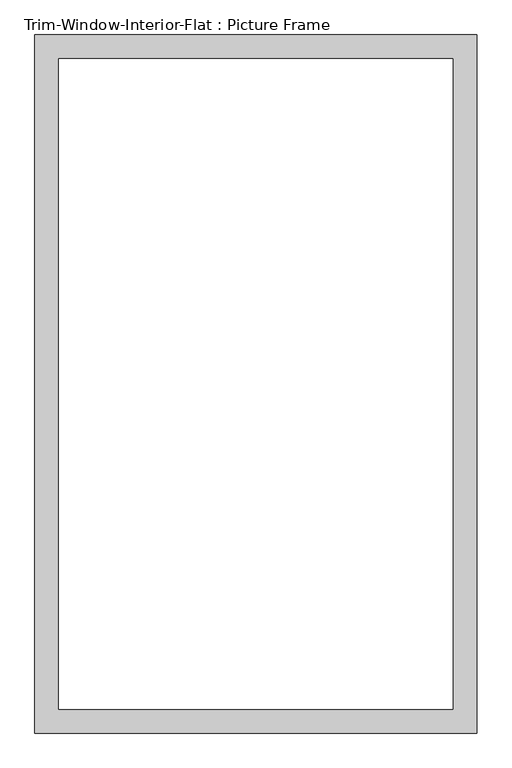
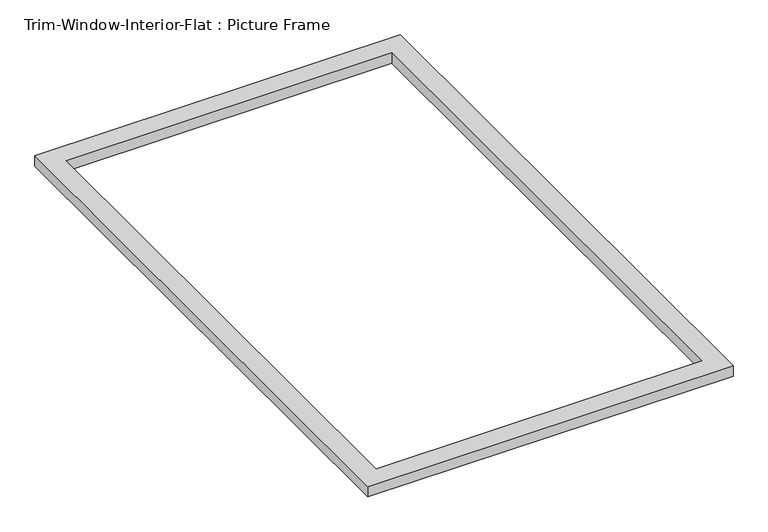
"""IFC4 building model written with IfcOpenShell, lengths in millimetres: proxy geometry, Trim-Window-Interior-Flat : Picture Frame."""

from ifc_helpers import new_model, si_unit, origin, origin_with_axes, place, context, project, spatial, polyline, outline, extrude, source, transform, mapped, element, save


def trim_window_interior_flat_picture_frame_21512d7e(model_context):
    return source(origin(), model_context, "Body", "SweptSolid", [
        extrude(outline(polyline([(527.05, 44.45), (527.05, -1619.25), (-527.05, -1619.25), (-527.05, 44.45), (527.05, 44.45)]), holes=[polyline([(469.9, -12.7), (-469.9, -12.7), (-469.9, -1562.1), (469.9, -1562.1), (469.9, -12.7)])]), origin_with_axes(), (0.0, 0.0, 1.0), 31.75),
    ])


if __name__ == "__main__":
    model = new_model("IFC4")
    model_context = context("Model", 3, world=origin())
    ifc_project = project(units=[si_unit("LENGTHUNIT", "METRE", prefix="MILLI")], contexts=[model_context])
    site = spatial("IfcSite", under=ifc_project)
    building = spatial("IfcBuilding", under=site)
    placement = place(None, origin())
    trim_window_interior_flat_picture_frame_shape = trim_window_interior_flat_picture_frame_21512d7e(model_context)
    element("IfcBuildingElementProxy", 1, Name="Trim-Window-Interior-Flat : Picture Frame", ObjectType="Trim-Window-Interior-Flat : Picture Frame", at=placement, inside=building, context=model_context, shape_type="MappedRepresentation", body=[
        mapped(trim_window_interior_flat_picture_frame_shape, transform((0.0, 0.0, 0.0), x_axis=(1.0, 0.0, 0.0), y_axis=(0.0, 1.0, 0.0), z_axis=(0.0, 0.0, 1.0))),
    ])
    save(model, "model.ifc")
